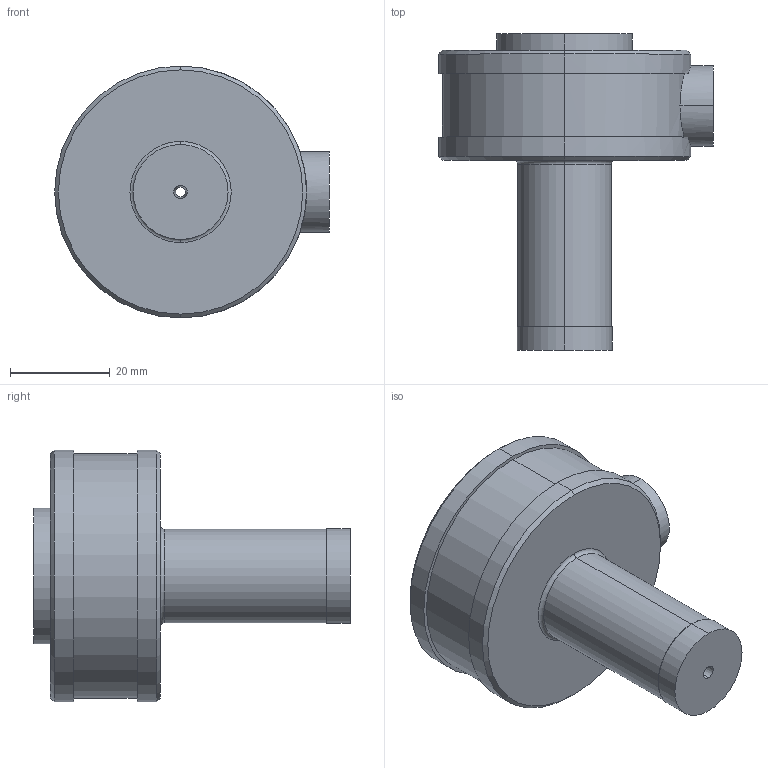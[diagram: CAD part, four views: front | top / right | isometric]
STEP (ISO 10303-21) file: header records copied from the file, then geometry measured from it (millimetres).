
FILE_DESCRIPTION (( 'STEP AP203' ), '1' );
FILE_NAME ('SB030000.STEP', '2009-05-05T18:23:32', ( 'Frank J. Eigler' ), ( 'DME' ), 'SwSTEP 2.0', 'SolidWorks 2009', '' );
FILE_SCHEMA (( 'CONFIG_CONTROL_DESIGN' ));
Length unit declared in the file: inch
Products named in the file (1): SB030000
Bounding box: 55.12 x 63.5 x 50.55 mm (x, y, z)
Volume: 55034.7 mm3; surface area: 11219.3 mm2
Topology: 1 solids, 1 shells, 37 faces, 92 edges, 58 vertices
Faces by surface type: cylinder 17, plane 8, cone 6, sphere 4, torus 2
Entity records: 1277 total; most frequent: CARTESIAN_POINT 278, DIRECTION 218, ORIENTED_EDGE 180, AXIS2_PLACEMENT_3D 96, EDGE_CURVE 90, CIRCLE 58, VERTEX_POINT 58, EDGE_LOOP 42
